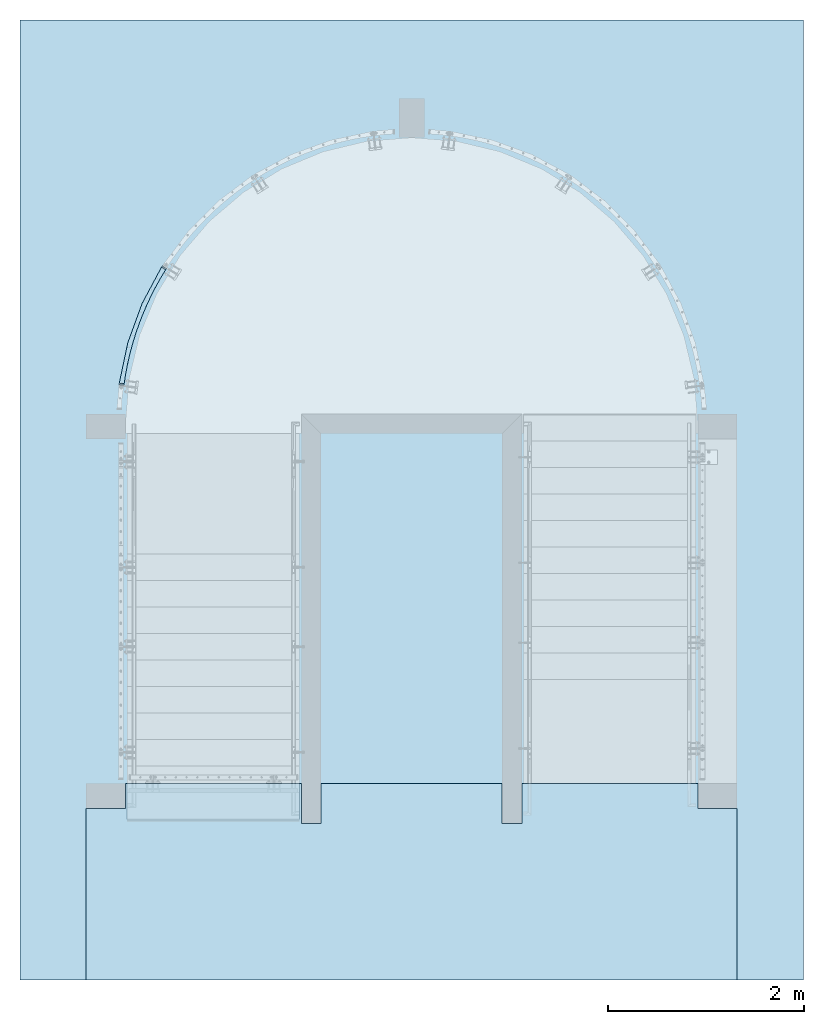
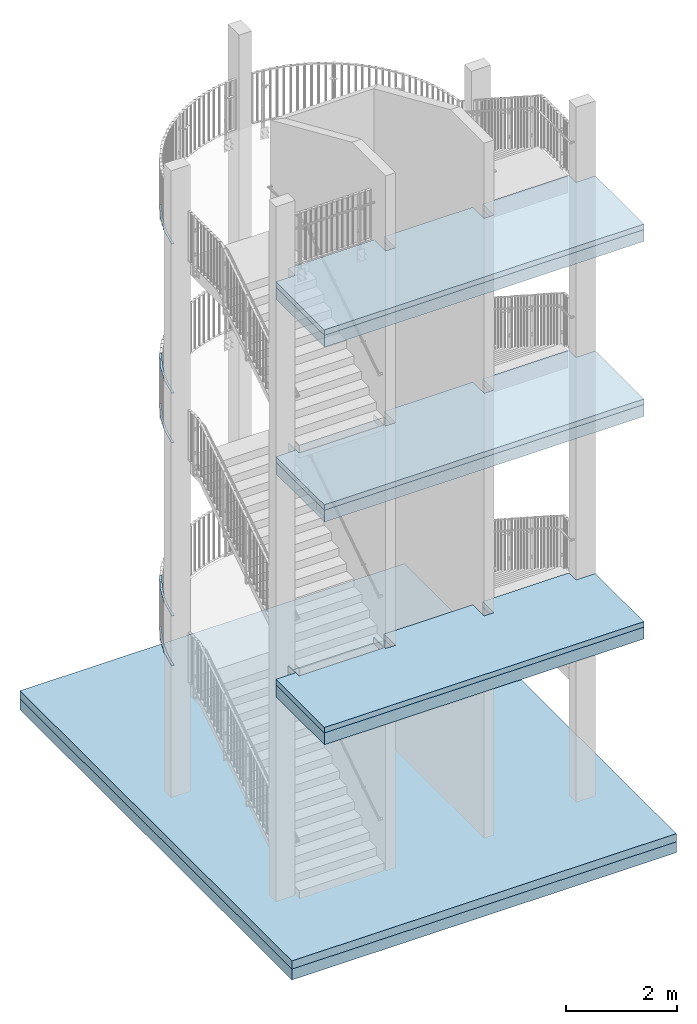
# One storey, part 103 of 296: 8 slabs, 5 plates, 42 openings.
"""IFC2X3 building model written with IfcOpenShell, lengths in millimetres."""

from ifc_helpers import new_model, entity, si_unit, converted_unit, point, frame, frame_2d, origin, origin_with_axes, place, context, project, spatial, polyline, circle_curve, line_curve, trimmed, segment, composite_curve, outline, extrude, material, layer, layer_set, element, save


model = new_model("IFC2X3")

# Units and contexts
model_context = context("Model", 3, precision=1e-09, world=origin_with_axes())
ifc_project = project(units=[si_unit("LENGTHUNIT", "METRE", prefix="MILLI"), si_unit("AREAUNIT", "SQUARE_METRE"), si_unit("VOLUMEUNIT", "CUBIC_METRE"), converted_unit("PLANEANGLEUNIT", "DEGREE", entity("IfcPlaneAngleMeasure", 0.01745329), si_unit("PLANEANGLEUNIT", "RADIAN"), dimensions=[0, 0, 0, 0, 0, 0, 0])], contexts=[model_context])

# Site, building, storey
site_placement = place(None, origin_with_axes())
site = spatial("IfcSite", under=ifc_project, at=site_placement, Name="TZD-S?d | Treppenhausgel?nder", CompositionType="ELEMENT")
building_placement = place(site_placement, origin_with_axes())
building = spatial("IfcBuilding", under=site, at=building_placement, Name="Struktur 1", CompositionType="ELEMENT")
storey_placement = place(building_placement, origin_with_axes())
storey = spatial("IfcBuildingStorey", under=building, at=storey_placement, Name="Default Storey", CompositionType="ELEMENT", Elevation=0.0)

# Plate, openings
ifc_material_1 = material(Name="S235JR")
ifc_layer_1 = layer(ifc_material_1, 10.0)
ifc_layer_set_1 = layer_set([ifc_layer_1], Name="S235JR")
plate_1_placement = place(None, frame((-13.645663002, 294.444758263, 8440.0), z_axis=(0.0, 0.0, 1.0), x_axis=(0.133033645, 0.991111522, 0.0)))
plate_1 = element("IfcPlate", 1, at=plate_1_placement, inside=storey, material=ifc_layer_set_1, Name="Girder", ObjectType="Girder", context=model_context, shape_type="SweptSolid", body=[
    extrude(outline(polyline([(0.0, 0.0), (0.0, -2965.0), (1239.452537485, -271.492545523), (1260.468823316, -226.123707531), (660.418630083, 50.027706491), (-0.126475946, 49.999997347), (0.0, 0.0)])), origin_with_axes(), (0.0, 0.0, 1.0), 10.0),
])
opening_1_placement = place(plate_1_placement, frame((0.0, 0.0, -0.01), z_axis=(0.0, 0.0, 1.0), x_axis=(1.0, 0.0, 0.0)))
element("IfcOpeningElement", 2, at=opening_1_placement, cuts=plate_1, ObjectType="Opening", context=model_context, shape_type="SweptSolid", body=[
    extrude(outline(composite_curve([segment(trimmed(line_curve((0.0, -2965.0), (0.418027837, 0.908434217), 2965.0), [point((0.0, -2965.0))], [point((1239.452537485, -271.492545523))], True, "CARTESIAN"), True, "CONTINUOUS"), segment(trimmed(circle_curve(frame_2d((0.0, -2965.0), x_axis=(1.0, 0.0)), 2965.0), [point((1239.452537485, -271.492545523))], [point((0.0, 0.0))], True, "CARTESIAN"), True, "CONTINUOUS"), segment(trimmed(line_curve((0.0, 0.0), (0.0, -1.0), 2965.0), [point((0.0, 0.0))], [point((0.0, -2965.0))], True, "CARTESIAN"), True, "CONTINUOUS")], self_intersect=False)), origin(), (0.0, 0.0, 1.0), 10.02),
])
opening_2_placement = place(plate_1_placement, frame((0.0, 0.0, -0.01), z_axis=(0.0, 0.0, 1.0), x_axis=(1.0, 0.0, 0.0)))
element("IfcOpeningElement", 3, at=opening_2_placement, cuts=plate_1, ObjectType="Opening", context=model_context, shape_type="SweptSolid", body=[
    extrude(outline(composite_curve([segment(trimmed(line_curve((660.418630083, 50.027706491), (-0.999999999, -4.1949e-05), 660.54510661), [point((660.418630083, 50.027706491))], [point((-0.126475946, 49.999997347))], True, "CARTESIAN"), True, "CONTINUOUS"), segment(trimmed(circle_curve(frame_2d((0.0, -2965.0), x_axis=(-1.0, 0.0)), 3015.0), [point((-0.126475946, 49.999997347))], [point((1260.468823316, -226.123707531))], False, "CARTESIAN"), True, "CONTINUOUS"), segment(trimmed(line_curve((1260.468823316, -226.123707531), (-0.908416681, 0.418065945), 660.54510661), [point((1260.468823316, -226.123707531))], [point((660.418630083, 50.027706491))], True, "CARTESIAN"), True, "CONTINUOUS")], self_intersect=False)), origin(), (0.0, 0.0, 1.0), 10.02),
])

plate_2_placement = place(None, frame((412.327124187, 1474.071160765, 7350.0), z_axis=(0.0, 0.0, -1.0), x_axis=(-0.530884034, -0.847444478, 0.0)))
plate_2 = element("IfcPlate", 4, at=plate_2_placement, inside=storey, material=ifc_layer_set_1, Name="-", ObjectType="-", context=model_context, shape_type="SweptSolid", body=[
    extrude(outline(polyline([(0.0, 0.0), (0.0, -2964.999999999), (1212.136152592, -259.089626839), (1232.92316853, -213.613901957), (644.462458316, 50.081129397), (-0.379437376, 49.999976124), (0.0, 0.0)])), origin_with_axes(), (0.0, 0.0, 1.0), 10.0),
])
opening_3_placement = place(plate_2_placement, frame((0.0, 0.0, -0.01), z_axis=(0.0, 0.0, 1.0), x_axis=(1.0, 0.0, 0.0)))
element("IfcOpeningElement", 5, at=opening_3_placement, cuts=plate_2, ObjectType="Opening", context=model_context, shape_type="SweptSolid", body=[
    extrude(outline(composite_curve([segment(trimmed(line_curve((0.0, -2964.999999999), (0.408814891, 0.912617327), 2964.999999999), [point((0.0, -2964.999999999))], [point((1212.136152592, -259.089626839))], True, "CARTESIAN"), True, "CONTINUOUS"), segment(trimmed(circle_curve(frame_2d((0.0, -2964.999999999), x_axis=(1.0, 0.0)), 2964.999999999), [point((1212.136152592, -259.089626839))], [point((0.0, 0.0))], True, "CARTESIAN"), True, "CONTINUOUS"), segment(trimmed(line_curve((0.0, 0.0), (0.0, -1.0), 2964.999999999), [point((0.0, 0.0))], [point((0.0, -2964.999999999))], True, "CARTESIAN"), True, "CONTINUOUS")], self_intersect=False)), origin(), (0.0, 0.0, 1.0), 10.02),
])
opening_4_placement = place(plate_2_placement, frame((0.0, 0.0, -0.01), z_axis=(0.0, 0.0, 1.0), x_axis=(1.0, 0.0, 0.0)))
element("IfcOpeningElement", 6, at=opening_4_placement, cuts=plate_2, ObjectType="Opening", context=model_context, shape_type="SweptSolid", body=[
    extrude(outline(composite_curve([segment(trimmed(line_curve((644.462458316, 50.081129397), (-0.999999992, -0.00012585), 644.841900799), [point((644.462458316, 50.081129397))], [point((-0.379437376, 49.999976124))], True, "CARTESIAN"), True, "CONTINUOUS"), segment(trimmed(circle_curve(frame_2d((-1e-09, -2965.000000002), x_axis=(-1.0, 0.0)), 3015.000000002), [point((-0.379437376, 49.999976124))], [point((1232.92316853, -213.613901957))], False, "CARTESIAN"), True, "CONTINUOUS"), segment(trimmed(line_curve((1232.92316853, -213.613901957), (-0.91256587, 0.408929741), 644.841900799), [point((1232.92316853, -213.613901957))], [point((644.462458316, 50.081129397))], True, "CARTESIAN"), True, "CONTINUOUS")], self_intersect=False)), origin(), (0.0, 0.0, 1.0), 10.02),
])

plate_3_placement = place(None, frame((-13.645663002, 294.444758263, 3540.0), z_axis=(0.0, 0.0, 1.0), x_axis=(0.133033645, 0.991111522, 0.0)))
plate_3 = element("IfcPlate", 7, at=plate_3_placement, inside=storey, material=ifc_layer_set_1, Name="Girder", ObjectType="Girder", context=model_context, shape_type="SweptSolid", body=[
    extrude(outline(polyline([(0.0, 0.0), (0.0, -2965.0), (1239.452537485, -271.492545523), (1260.468823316, -226.123707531), (660.418630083, 50.027706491), (-0.126475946, 49.999997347), (0.0, 0.0)])), origin_with_axes(), (0.0, 0.0, 1.0), 10.0),
])
opening_5_placement = place(plate_3_placement, frame((0.0, 0.0, -0.01), z_axis=(0.0, 0.0, 1.0), x_axis=(1.0, 0.0, 0.0)))
element("IfcOpeningElement", 8, at=opening_5_placement, cuts=plate_3, ObjectType="Opening", context=model_context, shape_type="SweptSolid", body=[
    extrude(outline(composite_curve([segment(trimmed(line_curve((0.0, -2965.0), (0.418027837, 0.908434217), 2965.0), [point((0.0, -2965.0))], [point((1239.452537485, -271.492545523))], True, "CARTESIAN"), True, "CONTINUOUS"), segment(trimmed(circle_curve(frame_2d((0.0, -2965.0), x_axis=(1.0, 0.0)), 2965.0), [point((1239.452537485, -271.492545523))], [point((0.0, 0.0))], True, "CARTESIAN"), True, "CONTINUOUS"), segment(trimmed(line_curve((0.0, 0.0), (0.0, -1.0), 2965.0), [point((0.0, 0.0))], [point((0.0, -2965.0))], True, "CARTESIAN"), True, "CONTINUOUS")], self_intersect=False)), origin(), (0.0, 0.0, 1.0), 10.02),
])
opening_6_placement = place(plate_3_placement, frame((0.0, 0.0, -0.01), z_axis=(0.0, 0.0, 1.0), x_axis=(1.0, 0.0, 0.0)))
element("IfcOpeningElement", 9, at=opening_6_placement, cuts=plate_3, ObjectType="Opening", context=model_context, shape_type="SweptSolid", body=[
    extrude(outline(composite_curve([segment(trimmed(line_curve((660.418630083, 50.027706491), (-0.999999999, -4.1949e-05), 660.54510661), [point((660.418630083, 50.027706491))], [point((-0.126475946, 49.999997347))], True, "CARTESIAN"), True, "CONTINUOUS"), segment(trimmed(circle_curve(frame_2d((0.0, -2965.0), x_axis=(-1.0, 0.0)), 3015.0), [point((-0.126475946, 49.999997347))], [point((1260.468823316, -226.123707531))], False, "CARTESIAN"), True, "CONTINUOUS"), segment(trimmed(line_curve((1260.468823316, -226.123707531), (-0.908416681, 0.418065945), 660.54510661), [point((1260.468823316, -226.123707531))], [point((660.418630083, 50.027706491))], True, "CARTESIAN"), True, "CONTINUOUS")], self_intersect=False)), origin(), (0.0, 0.0, 1.0), 10.02),
])

plate_4_placement = place(None, frame((412.327124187, 1474.071160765, 2450.0), z_axis=(0.0, 0.0, -1.0), x_axis=(-0.530884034, -0.847444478, 0.0)))
plate_4 = element("IfcPlate", 10, at=plate_4_placement, inside=storey, material=ifc_layer_set_1, Name="-", ObjectType="-", context=model_context, shape_type="SweptSolid", body=[
    extrude(outline(polyline([(0.0, 0.0), (0.0, -2964.999999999), (1212.136152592, -259.089626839), (1232.92316853, -213.613901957), (644.462458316, 50.081129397), (-0.379437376, 49.999976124), (0.0, 0.0)])), origin_with_axes(), (0.0, 0.0, 1.0), 10.0),
])
opening_7_placement = place(plate_4_placement, frame((0.0, 0.0, -0.01), z_axis=(0.0, 0.0, 1.0), x_axis=(1.0, 0.0, 0.0)))
element("IfcOpeningElement", 11, at=opening_7_placement, cuts=plate_4, ObjectType="Opening", context=model_context, shape_type="SweptSolid", body=[
    extrude(outline(composite_curve([segment(trimmed(line_curve((0.0, -2964.999999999), (0.408814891, 0.912617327), 2964.999999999), [point((0.0, -2964.999999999))], [point((1212.136152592, -259.089626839))], True, "CARTESIAN"), True, "CONTINUOUS"), segment(trimmed(circle_curve(frame_2d((0.0, -2964.999999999), x_axis=(1.0, 0.0)), 2964.999999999), [point((1212.136152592, -259.089626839))], [point((0.0, 0.0))], True, "CARTESIAN"), True, "CONTINUOUS"), segment(trimmed(line_curve((0.0, 0.0), (0.0, -1.0), 2964.999999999), [point((0.0, 0.0))], [point((0.0, -2964.999999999))], True, "CARTESIAN"), True, "CONTINUOUS")], self_intersect=False)), origin(), (0.0, 0.0, 1.0), 10.02),
])
opening_8_placement = place(plate_4_placement, frame((0.0, 0.0, -0.01), z_axis=(0.0, 0.0, 1.0), x_axis=(1.0, 0.0, 0.0)))
element("IfcOpeningElement", 12, at=opening_8_placement, cuts=plate_4, ObjectType="Opening", context=model_context, shape_type="SweptSolid", body=[
    extrude(outline(composite_curve([segment(trimmed(line_curve((644.462458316, 50.081129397), (-0.999999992, -0.00012585), 644.841900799), [point((644.462458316, 50.081129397))], [point((-0.379437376, 49.999976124))], True, "CARTESIAN"), True, "CONTINUOUS"), segment(trimmed(circle_curve(frame_2d((-1e-09, -2965.000000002), x_axis=(-1.0, 0.0)), 3015.000000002), [point((-0.379437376, 49.999976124))], [point((1232.92316853, -213.613901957))], False, "CARTESIAN"), True, "CONTINUOUS"), segment(trimmed(line_curve((1232.92316853, -213.613901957), (-0.91256587, 0.408929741), 644.841900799), [point((1232.92316853, -213.613901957))], [point((644.462458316, 50.081129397))], True, "CARTESIAN"), True, "CONTINUOUS")], self_intersect=False)), origin(), (0.0, 0.0, 1.0), 10.02),
])

plate_5_placement = place(None, frame((412.327124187, 1474.071160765, 11725.0), z_axis=(0.0, 0.0, -1.0), x_axis=(-0.530884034, -0.847444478, 0.0)))
plate_5 = element("IfcPlate", 13, at=plate_5_placement, inside=storey, material=ifc_layer_set_1, Name="-", ObjectType="-", context=model_context, shape_type="SweptSolid", body=[
    extrude(outline(polyline([(0.0, 0.0), (0.0, -2964.999999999), (1212.136152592, -259.089626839), (1232.92316853, -213.613901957), (644.462458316, 50.081129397), (-0.379437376, 49.999976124), (0.0, 0.0)])), origin_with_axes(), (0.0, 0.0, 1.0), 10.0),
])
opening_9_placement = place(plate_5_placement, frame((0.0, 0.0, -0.01), z_axis=(0.0, 0.0, 1.0), x_axis=(1.0, 0.0, 0.0)))
element("IfcOpeningElement", 14, at=opening_9_placement, cuts=plate_5, ObjectType="Opening", context=model_context, shape_type="SweptSolid", body=[
    extrude(outline(composite_curve([segment(trimmed(line_curve((0.0, -2964.999999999), (0.408814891, 0.912617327), 2964.999999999), [point((0.0, -2964.999999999))], [point((1212.136152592, -259.089626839))], True, "CARTESIAN"), True, "CONTINUOUS"), segment(trimmed(circle_curve(frame_2d((0.0, -2964.999999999), x_axis=(1.0, 0.0)), 2964.999999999), [point((1212.136152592, -259.089626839))], [point((0.0, 0.0))], True, "CARTESIAN"), True, "CONTINUOUS"), segment(trimmed(line_curve((0.0, 0.0), (0.0, -1.0), 2964.999999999), [point((0.0, 0.0))], [point((0.0, -2964.999999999))], True, "CARTESIAN"), True, "CONTINUOUS")], self_intersect=False)), origin(), (0.0, 0.0, 1.0), 10.02),
])
opening_10_placement = place(plate_5_placement, frame((0.0, 0.0, -0.01), z_axis=(0.0, 0.0, 1.0), x_axis=(1.0, 0.0, 0.0)))
element("IfcOpeningElement", 15, at=opening_10_placement, cuts=plate_5, ObjectType="Opening", context=model_context, shape_type="SweptSolid", body=[
    extrude(outline(composite_curve([segment(trimmed(line_curve((644.462458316, 50.081129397), (-0.999999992, -0.00012585), 644.841900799), [point((644.462458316, 50.081129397))], [point((-0.379437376, 49.999976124))], True, "CARTESIAN"), True, "CONTINUOUS"), segment(trimmed(circle_curve(frame_2d((-1e-09, -2965.000000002), x_axis=(-1.0, 0.0)), 3015.000000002), [point((-0.379437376, 49.999976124))], [point((1232.92316853, -213.613901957))], False, "CARTESIAN"), True, "CONTINUOUS"), segment(trimmed(line_curve((1232.92316853, -213.613901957), (-0.91256587, 0.408929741), 644.841900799), [point((1232.92316853, -213.613901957))], [point((644.462458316, 50.081129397))], True, "CARTESIAN"), True, "CONTINUOUS")], self_intersect=False)), origin(), (0.0, 0.0, 1.0), 10.02),
])

# Slab
ifc_material_2 = material(Name="C25/30")
ifc_layer_2 = layer(ifc_material_2, 180.0)
ifc_layer_set_2 = layer_set([ifc_layer_2], Name="C25/30")
slab_1_placement = place(None, frame((2925.0, -877.5, -180.0), z_axis=(0.0, 0.0, 1.0), x_axis=(0.0, -1.0, 0.0)))
element("IfcSlab", 16, at=slab_1_placement, inside=storey, material=ifc_layer_set_2, Name="-", ObjectType="-", context=model_context, shape_type="SweptSolid", body=[
    extrude(outline(polyline([(-4902.5, -4000.0), (4902.5, -4000.0), (4902.5, 4000.0), (-4902.5, 4000.0), (-4902.5, -4000.0)])), origin_with_axes(), (0.0, 0.0, 1.0), 180.0),
])

# Slab, openings
ifc_layer_3 = layer(ifc_material_2, 260.0)
ifc_layer_set_3 = layer_set([ifc_layer_3], Name="C25/30")
slab_2_placement = place(None, frame((2925.0, -4290.0, 9420.0), z_axis=(0.0, 0.0, -1.0), x_axis=(0.0, 1.0, 0.0)))
slab_2 = element("IfcSlab", 17, at=slab_2_placement, inside=storey, material=ifc_layer_set_3, Name="-", ObjectType="-", context=model_context, shape_type="SweptSolid", body=[
    extrude(outline(polyline([(-1490.0, -3325.0), (1490.0, -3325.0), (1490.0, 3325.0), (-1490.0, 3325.0), (-1490.0, -3325.0)])), origin_with_axes(), (0.0, 0.0, -1.0), 260.0),
])
opening_11_placement = place(slab_2_placement, frame((2087.924531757, -1125.001, -260.1), z_axis=(0.0, 0.0, -1.0), x_axis=(-1.0, 0.0, 0.0)))
element("IfcOpeningElement", 18, at=opening_11_placement, cuts=slab_2, ObjectType="Opening", context=model_context, shape_type="SweptSolid", body=[
    extrude(outline(polyline([(0.0, 0.0), (1977.925531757, 0.0), (1977.925531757, 200.002), (797.925531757, 200.002), (797.925531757, 2050.0), (1977.925531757, 2050.0), (1977.925531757, 2250.002), (0.0, 2250.002), (0.0, 0.0)])), origin(), (0.0, 0.0, -1.0), 260.2),
])
opening_12_placement = place(slab_2_placement, frame((1913.98741748, 1027.239449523, -260.1), z_axis=(0.0, 0.0, -1.0), x_axis=(-1.0, 0.0, 0.0)))
element("IfcOpeningElement", 19, at=opening_12_placement, cuts=slab_2, ObjectType="Opening", context=model_context, shape_type="SweptSolid", body=[
    extrude(outline(polyline([(0.0, 0.0), (1398.98841748, 0.0), (1398.98841748, 2897.459521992), (0.0, 2897.459521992), (0.0, 0.0)])), origin(), (0.0, 0.0, -1.0), 260.2),
])
opening_13_placement = place(slab_2_placement, frame((1999.877281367, -3594.384083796, -260.1), z_axis=(0.0, 0.0, -1.0), x_axis=(-1.0, 0.0, 0.0)))
element("IfcOpeningElement", 20, at=opening_13_placement, cuts=slab_2, ObjectType="Opening", context=model_context, shape_type="SweptSolid", body=[
    extrude(outline(polyline([(0.0, 0.0), (1484.878281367, 0.0), (1484.878281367, 5413.954540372), (0.0, 5413.954540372), (0.0, 0.0)])), origin(), (0.0, 0.0, -1.0), 260.2),
])
opening_14_placement = place(slab_2_placement, frame((720.542818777, -3594.384083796, -260.1), z_axis=(0.0, 0.0, -1.0), x_axis=(-1.0, 0.0, 0.0)))
element("IfcOpeningElement", 21, at=opening_14_placement, cuts=slab_2, ObjectType="Opening", context=model_context, shape_type="SweptSolid", body=[
    extrude(outline(polyline([(0.0, 0.0), (460.543818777, 0.0), (460.543818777, 669.385083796), (0.0, 669.385083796), (0.0, 0.0)])), origin(), (0.0, 0.0, -1.0), 260.2),
])
opening_15_placement = place(slab_2_placement, frame((720.641641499, 2924.999, -260.1), z_axis=(0.0, 0.0, -1.0), x_axis=(-1.0, 0.0, 0.0)))
element("IfcOpeningElement", 22, at=opening_15_placement, cuts=slab_2, ObjectType="Opening", context=model_context, shape_type="SweptSolid", body=[
    extrude(outline(polyline([(0.0, 0.0), (460.642641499, 0.0), (460.642641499, 788.840042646), (0.0, 788.840042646), (0.0, 0.0)])), origin(), (0.0, 0.0, -1.0), 260.2),
])

ifc_layer_4 = layer(ifc_material_2, 120.0)
ifc_layer_set_4 = layer_set([ifc_layer_4], Name="C25/30")
slab_3_placement = place(None, frame((2925.0, -4290.0, 9680.0), z_axis=(0.0, 0.0, -1.0), x_axis=(0.0, 1.0, 0.0)))
slab_3 = element("IfcSlab", 23, at=slab_3_placement, inside=storey, material=ifc_layer_set_4, Name="-", ObjectType="-", context=model_context, shape_type="SweptSolid", body=[
    extrude(outline(polyline([(-1490.0, -3325.0), (1490.0, -3325.0), (1490.0, 3325.0), (-1490.0, 3325.0), (-1490.0, -3325.0)])), origin_with_axes(), (0.0, 0.0, -1.0), 120.0),
])
opening_16_placement = place(slab_3_placement, frame((2087.924531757, -1125.001, -120.1), z_axis=(0.0, 0.0, -1.0), x_axis=(-1.0, 0.0, 0.0)))
element("IfcOpeningElement", 24, at=opening_16_placement, cuts=slab_3, ObjectType="Opening", context=model_context, shape_type="SweptSolid", body=[
    extrude(outline(polyline([(0.0, 0.0), (1977.925531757, 0.0), (1977.925531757, 200.002), (797.925531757, 200.002), (797.925531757, 2050.0), (1977.925531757, 2050.0), (1977.925531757, 2250.002), (0.0, 2250.002), (0.0, 0.0)])), origin(), (0.0, 0.0, -1.0), 120.2),
])
opening_17_placement = place(slab_3_placement, frame((1913.98741748, 1027.239449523, -120.1), z_axis=(0.0, 0.0, -1.0), x_axis=(-1.0, 0.0, 0.0)))
element("IfcOpeningElement", 25, at=opening_17_placement, cuts=slab_3, ObjectType="Opening", context=model_context, shape_type="SweptSolid", body=[
    extrude(outline(polyline([(0.0, 0.0), (1398.98841748, 0.0), (1398.98841748, 2897.459521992), (0.0, 2897.459521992), (0.0, 0.0)])), origin(), (0.0, 0.0, -1.0), 120.2),
])
opening_18_placement = place(slab_3_placement, frame((1999.877281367, -3594.384083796, -120.1), z_axis=(0.0, 0.0, -1.0), x_axis=(-1.0, 0.0, 0.0)))
element("IfcOpeningElement", 26, at=opening_18_placement, cuts=slab_3, ObjectType="Opening", context=model_context, shape_type="SweptSolid", body=[
    extrude(outline(polyline([(0.0, 0.0), (1484.878281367, 0.0), (1484.878281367, 5413.954540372), (0.0, 5413.954540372), (0.0, 0.0)])), origin(), (0.0, 0.0, -1.0), 120.2),
])
opening_19_placement = place(slab_3_placement, frame((720.542818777, -3594.384083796, -120.1), z_axis=(0.0, 0.0, -1.0), x_axis=(-1.0, 0.0, 0.0)))
element("IfcOpeningElement", 27, at=opening_19_placement, cuts=slab_3, ObjectType="Opening", context=model_context, shape_type="SweptSolid", body=[
    extrude(outline(polyline([(0.0, 0.0), (460.543818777, 0.0), (460.543818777, 669.385083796), (0.0, 669.385083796), (0.0, 0.0)])), origin(), (0.0, 0.0, -1.0), 120.2),
])
opening_20_placement = place(slab_3_placement, frame((720.641641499, 2924.999, -120.1), z_axis=(0.0, 0.0, -1.0), x_axis=(-1.0, 0.0, 0.0)))
element("IfcOpeningElement", 28, at=opening_20_placement, cuts=slab_3, ObjectType="Opening", context=model_context, shape_type="SweptSolid", body=[
    extrude(outline(polyline([(0.0, 0.0), (460.642641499, 0.0), (460.642641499, 788.840042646), (0.0, 788.840042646), (0.0, 0.0)])), origin(), (0.0, 0.0, -1.0), 120.2),
])
opening_21_placement = place(slab_3_placement, frame((1133.25916603, -2905.001, -120.1), z_axis=(0.0, 0.0, -1.0), x_axis=(-1.0, 0.0, 0.0)))
element("IfcOpeningElement", 29, at=opening_21_placement, cuts=slab_3, ObjectType="Opening", context=model_context, shape_type="SweptSolid", body=[
    extrude(outline(polyline([(0.0, 0.0), (977.203006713, 0.0), (977.203006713, 1760.002), (0.0, 1760.002), (0.0, 0.0)])), origin(), (0.0, 0.0, -1.0), 120.2),
])

slab_4_placement = place(None, frame((2925.0, -4290.0, 13270.0), z_axis=(0.0, 0.0, -1.0), x_axis=(0.0, 1.0, 0.0)))
slab_4 = element("IfcSlab", 30, at=slab_4_placement, inside=storey, material=ifc_layer_set_3, Name="-", ObjectType="-", context=model_context, shape_type="SweptSolid", body=[
    extrude(outline(polyline([(-1490.0, -3325.0), (1490.0, -3325.0), (1490.0, 3325.0), (-1490.0, 3325.0), (-1490.0, -3325.0)])), origin_with_axes(), (0.0, 0.0, -1.0), 260.0),
])
opening_22_placement = place(slab_4_placement, frame((2087.924531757, -1125.001, -260.1), z_axis=(0.0, 0.0, -1.0), x_axis=(-1.0, 0.0, 0.0)))
element("IfcOpeningElement", 31, at=opening_22_placement, cuts=slab_4, ObjectType="Opening", context=model_context, shape_type="SweptSolid", body=[
    extrude(outline(polyline([(0.0, 0.0), (1977.925531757, 0.0), (1977.925531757, 200.002), (797.925531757, 200.002), (797.925531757, 2050.0), (1977.925531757, 2050.0), (1977.925531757, 2250.002), (0.0, 2250.002), (0.0, 0.0)])), origin(), (0.0, 0.0, -1.0), 260.2),
])
opening_23_placement = place(slab_4_placement, frame((1913.98741748, 1027.239449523, -260.1), z_axis=(0.0, 0.0, -1.0), x_axis=(-1.0, 0.0, 0.0)))
element("IfcOpeningElement", 32, at=opening_23_placement, cuts=slab_4, ObjectType="Opening", context=model_context, shape_type="SweptSolid", body=[
    extrude(outline(polyline([(0.0, 0.0), (1398.98841748, 0.0), (1398.98841748, 2897.459521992), (0.0, 2897.459521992), (0.0, 0.0)])), origin(), (0.0, 0.0, -1.0), 260.2),
])
opening_24_placement = place(slab_4_placement, frame((1999.877281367, -3594.384083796, -260.1), z_axis=(0.0, 0.0, -1.0), x_axis=(-1.0, 0.0, 0.0)))
element("IfcOpeningElement", 33, at=opening_24_placement, cuts=slab_4, ObjectType="Opening", context=model_context, shape_type="SweptSolid", body=[
    extrude(outline(polyline([(0.0, 0.0), (1484.878281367, 0.0), (1484.878281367, 5413.954540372), (0.0, 5413.954540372), (0.0, 0.0)])), origin(), (0.0, 0.0, -1.0), 260.2),
])
opening_25_placement = place(slab_4_placement, frame((720.542818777, -3594.384083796, -260.1), z_axis=(0.0, 0.0, -1.0), x_axis=(-1.0, 0.0, 0.0)))
element("IfcOpeningElement", 34, at=opening_25_placement, cuts=slab_4, ObjectType="Opening", context=model_context, shape_type="SweptSolid", body=[
    extrude(outline(polyline([(0.0, 0.0), (460.543818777, 0.0), (460.543818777, 669.385083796), (0.0, 669.385083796), (0.0, 0.0)])), origin(), (0.0, 0.0, -1.0), 260.2),
])
opening_26_placement = place(slab_4_placement, frame((720.641641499, 2924.999, -260.1), z_axis=(0.0, 0.0, -1.0), x_axis=(-1.0, 0.0, 0.0)))
element("IfcOpeningElement", 35, at=opening_26_placement, cuts=slab_4, ObjectType="Opening", context=model_context, shape_type="SweptSolid", body=[
    extrude(outline(polyline([(0.0, 0.0), (460.642641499, 0.0), (460.642641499, 788.840042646), (0.0, 788.840042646), (0.0, 0.0)])), origin(), (0.0, 0.0, -1.0), 260.2),
])

slab_5_placement = place(None, frame((2925.0, -4290.0, 13530.0), z_axis=(0.0, 0.0, -1.0), x_axis=(0.0, 1.0, 0.0)))
slab_5 = element("IfcSlab", 36, at=slab_5_placement, inside=storey, material=ifc_layer_set_4, Name="-", ObjectType="-", context=model_context, shape_type="SweptSolid", body=[
    extrude(outline(polyline([(-1490.0, -3325.0), (1490.0, -3325.0), (1490.0, 3325.0), (-1490.0, 3325.0), (-1490.0, -3325.0)])), origin_with_axes(), (0.0, 0.0, -1.0), 120.0),
])
opening_27_placement = place(slab_5_placement, frame((2087.924531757, -1125.001, -120.1), z_axis=(0.0, 0.0, -1.0), x_axis=(-1.0, 0.0, 0.0)))
element("IfcOpeningElement", 37, at=opening_27_placement, cuts=slab_5, ObjectType="Opening", context=model_context, shape_type="SweptSolid", body=[
    extrude(outline(polyline([(0.0, 0.0), (1977.925531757, 0.0), (1977.925531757, 200.002), (797.925531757, 200.002), (797.925531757, 2050.0), (1977.925531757, 2050.0), (1977.925531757, 2250.002), (0.0, 2250.002), (0.0, 0.0)])), origin(), (0.0, 0.0, -1.0), 120.2),
])
opening_28_placement = place(slab_5_placement, frame((1913.98741748, 1027.239449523, -120.1), z_axis=(0.0, 0.0, -1.0), x_axis=(-1.0, 0.0, 0.0)))
element("IfcOpeningElement", 38, at=opening_28_placement, cuts=slab_5, ObjectType="Opening", context=model_context, shape_type="SweptSolid", body=[
    extrude(outline(polyline([(0.0, 0.0), (1398.98841748, 0.0), (1398.98841748, 2897.459521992), (0.0, 2897.459521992), (0.0, 0.0)])), origin(), (0.0, 0.0, -1.0), 120.2),
])
opening_29_placement = place(slab_5_placement, frame((1999.877281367, -3594.384083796, -120.1), z_axis=(0.0, 0.0, -1.0), x_axis=(-1.0, 0.0, 0.0)))
element("IfcOpeningElement", 39, at=opening_29_placement, cuts=slab_5, ObjectType="Opening", context=model_context, shape_type="SweptSolid", body=[
    extrude(outline(polyline([(0.0, 0.0), (1484.878281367, 0.0), (1484.878281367, 5413.954540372), (0.0, 5413.954540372), (0.0, 0.0)])), origin(), (0.0, 0.0, -1.0), 120.2),
])
opening_30_placement = place(slab_5_placement, frame((720.542818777, -3594.384083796, -120.1), z_axis=(0.0, 0.0, -1.0), x_axis=(-1.0, 0.0, 0.0)))
element("IfcOpeningElement", 40, at=opening_30_placement, cuts=slab_5, ObjectType="Opening", context=model_context, shape_type="SweptSolid", body=[
    extrude(outline(polyline([(0.0, 0.0), (460.543818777, 0.0), (460.543818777, 669.385083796), (0.0, 669.385083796), (0.0, 0.0)])), origin(), (0.0, 0.0, -1.0), 120.2),
])
opening_31_placement = place(slab_5_placement, frame((720.641641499, 2924.999, -120.1), z_axis=(0.0, 0.0, -1.0), x_axis=(-1.0, 0.0, 0.0)))
element("IfcOpeningElement", 41, at=opening_31_placement, cuts=slab_5, ObjectType="Opening", context=model_context, shape_type="SweptSolid", body=[
    extrude(outline(polyline([(0.0, 0.0), (460.642641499, 0.0), (460.642641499, 788.840042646), (0.0, 788.840042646), (0.0, 0.0)])), origin(), (0.0, 0.0, -1.0), 120.2),
])

slab_6_placement = place(None, frame((2925.0, -4290.0, 4520.0), z_axis=(0.0, 0.0, -1.0), x_axis=(0.0, 1.0, 0.0)))
slab_6 = element("IfcSlab", 42, at=slab_6_placement, inside=storey, material=ifc_layer_set_3, Name="-", ObjectType="-", context=model_context, shape_type="SweptSolid", body=[
    extrude(outline(polyline([(-1490.0, -3325.0), (1490.0, -3325.0), (1490.0, 3325.0), (-1490.0, 3325.0), (-1490.0, -3325.0)])), origin_with_axes(), (0.0, 0.0, -1.0), 260.0),
])
opening_32_placement = place(slab_6_placement, frame((2087.924531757, -1125.001, -260.1), z_axis=(0.0, 0.0, -1.0), x_axis=(-1.0, 0.0, 0.0)))
element("IfcOpeningElement", 43, at=opening_32_placement, cuts=slab_6, ObjectType="Opening", context=model_context, shape_type="SweptSolid", body=[
    extrude(outline(polyline([(0.0, 0.0), (1977.925531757, 0.0), (1977.925531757, 200.002), (797.925531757, 200.002), (797.925531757, 2050.0), (1977.925531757, 2050.0), (1977.925531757, 2250.002), (0.0, 2250.002), (0.0, 0.0)])), origin(), (0.0, 0.0, -1.0), 260.2),
])
opening_33_placement = place(slab_6_placement, frame((1913.98741748, 1027.239449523, -260.1), z_axis=(0.0, 0.0, -1.0), x_axis=(-1.0, 0.0, 0.0)))
element("IfcOpeningElement", 44, at=opening_33_placement, cuts=slab_6, ObjectType="Opening", context=model_context, shape_type="SweptSolid", body=[
    extrude(outline(polyline([(0.0, 0.0), (1398.98841748, 0.0), (1398.98841748, 2897.459521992), (0.0, 2897.459521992), (0.0, 0.0)])), origin(), (0.0, 0.0, -1.0), 260.2),
])
opening_34_placement = place(slab_6_placement, frame((1999.877281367, -3594.384083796, -260.1), z_axis=(0.0, 0.0, -1.0), x_axis=(-1.0, 0.0, 0.0)))
element("IfcOpeningElement", 45, at=opening_34_placement, cuts=slab_6, ObjectType="Opening", context=model_context, shape_type="SweptSolid", body=[
    extrude(outline(polyline([(0.0, 0.0), (1484.878281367, 0.0), (1484.878281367, 5413.954540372), (0.0, 5413.954540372), (0.0, 0.0)])), origin(), (0.0, 0.0, -1.0), 260.2),
])
opening_35_placement = place(slab_6_placement, frame((720.542818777, -3594.384083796, -260.1), z_axis=(0.0, 0.0, -1.0), x_axis=(-1.0, 0.0, 0.0)))
element("IfcOpeningElement", 46, at=opening_35_placement, cuts=slab_6, ObjectType="Opening", context=model_context, shape_type="SweptSolid", body=[
    extrude(outline(polyline([(0.0, 0.0), (460.543818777, 0.0), (460.543818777, 669.385083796), (0.0, 669.385083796), (0.0, 0.0)])), origin(), (0.0, 0.0, -1.0), 260.2),
])
opening_36_placement = place(slab_6_placement, frame((720.641641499, 2924.999, -260.1), z_axis=(0.0, 0.0, -1.0), x_axis=(-1.0, 0.0, 0.0)))
element("IfcOpeningElement", 47, at=opening_36_placement, cuts=slab_6, ObjectType="Opening", context=model_context, shape_type="SweptSolid", body=[
    extrude(outline(polyline([(0.0, 0.0), (460.642641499, 0.0), (460.642641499, 788.840042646), (0.0, 788.840042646), (0.0, 0.0)])), origin(), (0.0, 0.0, -1.0), 260.2),
])

slab_7_placement = place(None, frame((2925.0, -4290.0, 4780.0), z_axis=(0.0, 0.0, -1.0), x_axis=(0.0, 1.0, 0.0)))
slab_7 = element("IfcSlab", 48, at=slab_7_placement, inside=storey, material=ifc_layer_set_4, Name="-", ObjectType="-", context=model_context, shape_type="SweptSolid", body=[
    extrude(outline(polyline([(-1490.0, -3325.0), (1490.0, -3325.0), (1490.0, 3325.0), (-1490.0, 3325.0), (-1490.0, -3325.0)])), origin_with_axes(), (0.0, 0.0, -1.0), 120.0),
])
opening_37_placement = place(slab_7_placement, frame((2087.924531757, -1125.001, -120.1), z_axis=(0.0, 0.0, -1.0), x_axis=(-1.0, 0.0, 0.0)))
element("IfcOpeningElement", 49, at=opening_37_placement, cuts=slab_7, ObjectType="Opening", context=model_context, shape_type="SweptSolid", body=[
    extrude(outline(polyline([(0.0, 0.0), (1977.925531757, 0.0), (1977.925531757, 200.002), (797.925531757, 200.002), (797.925531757, 2050.0), (1977.925531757, 2050.0), (1977.925531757, 2250.002), (0.0, 2250.002), (0.0, 0.0)])), origin(), (0.0, 0.0, -1.0), 120.2),
])
opening_38_placement = place(slab_7_placement, frame((1913.98741748, 1027.239449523, -120.1), z_axis=(0.0, 0.0, -1.0), x_axis=(-1.0, 0.0, 0.0)))
element("IfcOpeningElement", 50, at=opening_38_placement, cuts=slab_7, ObjectType="Opening", context=model_context, shape_type="SweptSolid", body=[
    extrude(outline(polyline([(0.0, 0.0), (1398.98841748, 0.0), (1398.98841748, 2897.459521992), (0.0, 2897.459521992), (0.0, 0.0)])), origin(), (0.0, 0.0, -1.0), 120.2),
])
opening_39_placement = place(slab_7_placement, frame((1999.877281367, -3594.384083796, -120.1), z_axis=(0.0, 0.0, -1.0), x_axis=(-1.0, 0.0, 0.0)))
element("IfcOpeningElement", 51, at=opening_39_placement, cuts=slab_7, ObjectType="Opening", context=model_context, shape_type="SweptSolid", body=[
    extrude(outline(polyline([(0.0, 0.0), (1484.878281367, 0.0), (1484.878281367, 5413.954540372), (0.0, 5413.954540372), (0.0, 0.0)])), origin(), (0.0, 0.0, -1.0), 120.2),
])
opening_40_placement = place(slab_7_placement, frame((720.542818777, -3594.384083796, -120.1), z_axis=(0.0, 0.0, -1.0), x_axis=(-1.0, 0.0, 0.0)))
element("IfcOpeningElement", 52, at=opening_40_placement, cuts=slab_7, ObjectType="Opening", context=model_context, shape_type="SweptSolid", body=[
    extrude(outline(polyline([(0.0, 0.0), (460.543818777, 0.0), (460.543818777, 669.385083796), (0.0, 669.385083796), (0.0, 0.0)])), origin(), (0.0, 0.0, -1.0), 120.2),
])
opening_41_placement = place(slab_7_placement, frame((720.641641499, 2924.999, -120.1), z_axis=(0.0, 0.0, -1.0), x_axis=(-1.0, 0.0, 0.0)))
element("IfcOpeningElement", 53, at=opening_41_placement, cuts=slab_7, ObjectType="Opening", context=model_context, shape_type="SweptSolid", body=[
    extrude(outline(polyline([(0.0, 0.0), (460.642641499, 0.0), (460.642641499, 788.840042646), (0.0, 788.840042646), (0.0, 0.0)])), origin(), (0.0, 0.0, -1.0), 120.2),
])
opening_42_placement = place(slab_7_placement, frame((856.313797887, -2905.001, -120.1), z_axis=(0.0, 0.0, -1.0), x_axis=(-1.0, 0.0, 0.0)))
element("IfcOpeningElement", 54, at=opening_42_placement, cuts=slab_7, ObjectType="Opening", context=model_context, shape_type="SweptSolid", body=[
    extrude(outline(polyline([(0.0, 0.0), (712.047487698, 0.0), (712.047487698, 1760.002), (0.0, 1760.002), (0.0, 0.0)])), origin(), (0.0, 0.0, -1.0), 120.2),
])

# Slab
ifc_layer_5 = layer(ifc_material_2, 240.0)
ifc_layer_set_5 = layer_set([ifc_layer_5], Name="C25/30")
slab_8_placement = place(None, frame((2925.0, -877.5, -420.0), z_axis=(0.0, 0.0, 1.0), x_axis=(0.0, -1.0, 0.0)))
element("IfcSlab", 55, at=slab_8_placement, inside=storey, material=ifc_layer_set_5, Name="-", ObjectType="-", context=model_context, shape_type="SweptSolid", body=[
    extrude(outline(polyline([(-4902.5, -4000.0), (4902.5, -4000.0), (4902.5, 4000.0), (-4902.5, 4000.0), (-4902.5, -4000.0)])), origin_with_axes(), (0.0, 0.0, 1.0), 240.0),
])

save(model, "model.ifc")
